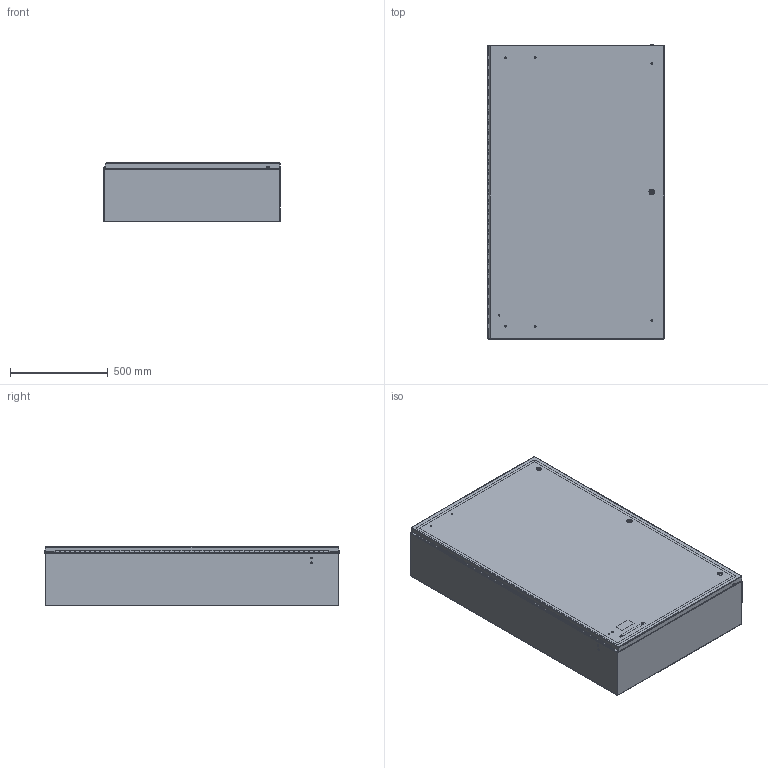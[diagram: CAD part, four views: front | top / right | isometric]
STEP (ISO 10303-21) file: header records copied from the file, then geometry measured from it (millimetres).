
FILE_DESCRIPTION (( 'STEP AP203' ), '1' );
FILE_NAME ('ecl1509030ch.STEP', '2013-09-11T13:53:08', ( 'User' ), ( 'Pentair Inc' ), 'SwSTEP 2.0', 'SolidWorks 2010', '' );
FILE_SCHEMA (( 'CONFIG_CONTROL_DESIGN' ));
Products named in the file (40): ecl1509030ch; 89051899; 89052980; 87559713; 87554969; 89051851; 87554464; 89051852; 87554468; 87554978_PEM HFHS-M6-15 ---N; 87559862; 89051731; 89051708; 87559680; 87744876_87744876; 87554979_87554979; 99411940_99411940; 89051696; 64138001; 91120001_91120001; 87780048; 87554967_OPEN; 87960059_Default 14 ga; 87956873; 87956874; 31122001_31122001; 99407583; 87956867; 99405181; 87956872; 87956875; 99414303_99414303; 99411839_99411839; 27131001; 87554494; 89051754; 87793415_87793415; 87555333_87555333; 87933943_87933843; 87559871
Assembly tree (59 placements, depth 5):
  ecl1509030ch
    89051899
      89051852
        87554468
        87554978_PEM HFHS-M6-15 ---N  x2
      89051851
        87554978_PEM HFHS-M6-15 ---N  x2
        87554464
      87559862
      87554969  x8
      89052980
        87559713
        99411940_99411940
    89051731
      89051708
        87744876_87744876  x2
        87559680
        99411940_99411940
        87554979_87554979  x4
      64138001  x2
      99411839_99411839  x2
      89051696
      27131001  x2
      87554967_OPEN
        87960059_Default 14 ga
          31122001_31122001
          87956874
          87956873
        99414303_99414303
        99407583
          87956867
          87956875
          87956872
          99405181
      91120001_91120001  x2
      89051754  x2
      87780048
      87554494
    87555333_87555333
      87933943_87933843
    87559871
    87793415_87793415
Bounding box: 900.65 x 1504.04 x 304.23 mm (x, y, z)
Volume: 10196388.1 mm3; surface area: 9132210.5 mm2
Topology: 55 solids, 67 shells, 3253 faces, 8245 edges, 5198 vertices
Faces by surface type: plane 1710, cylinder 935, cone 327, torus 116, bspline 105, sphere 60
Entity records: 78427 total; most frequent: CARTESIAN_POINT 19630, DIRECTION 11368, ORIENTED_EDGE 11188, EDGE_CURVE 5598, AXIS2_PLACEMENT_3D 4052, VERTEX_POINT 3495, VECTOR 3264, LINE 3264
